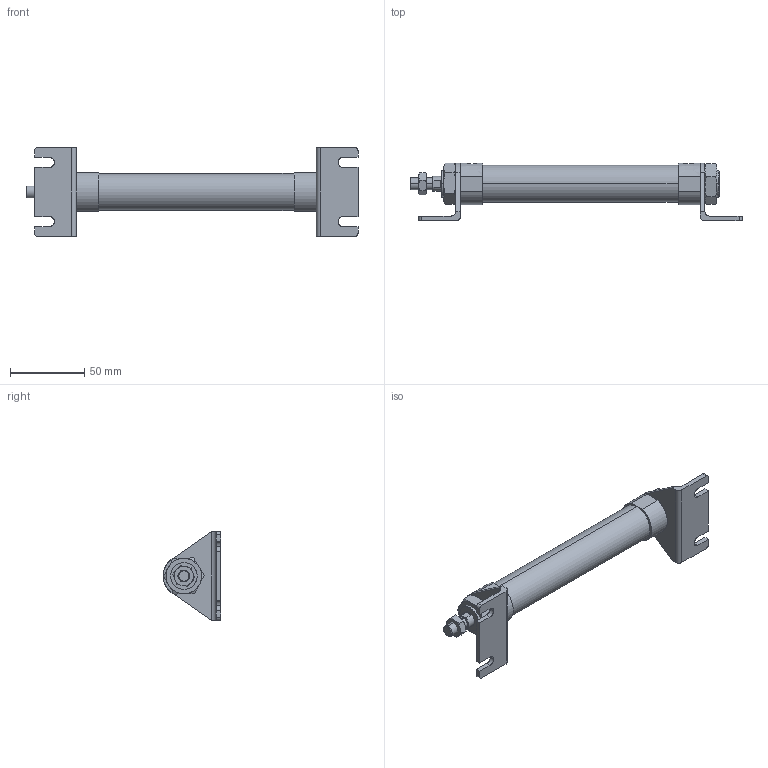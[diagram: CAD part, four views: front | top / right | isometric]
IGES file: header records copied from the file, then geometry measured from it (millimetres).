
Start section: SolidWorks IGES file using analytic representation for surfaces
Global section: file name: C:\Users\Toshiba\Desktop\J#2-20-100-L.IGS; native system: SolidWorks 2014; preprocessor: SolidWorks 2014; author: Toshiba; date: 160310.085026; units: millimetre
Bounding box: 224.2 x 39 x 60 mm (x, y, z)
Surface area: 33137.5 mm2 (no closed solid volume)
Topology: 0 solids, 0 shells, 168 faces, 2672 edges, 2672 vertices
Faces by surface type: bspline 110, revolution 58
